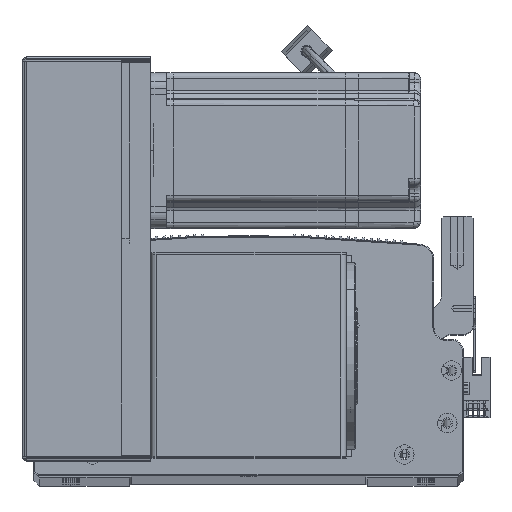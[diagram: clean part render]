
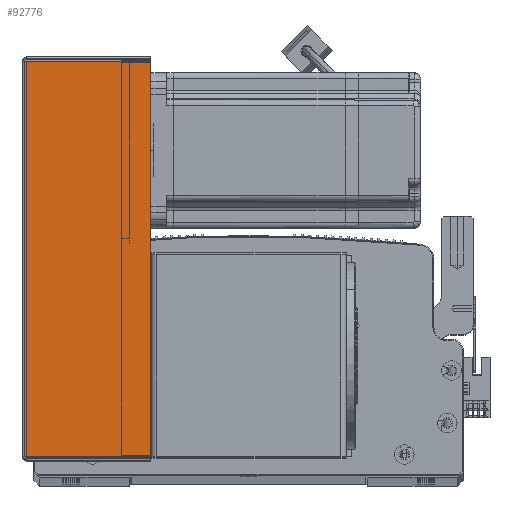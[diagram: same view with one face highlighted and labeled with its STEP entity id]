
A CAD part, top view. The second image highlights one B-rep face of the part: STEP entity #92776.
In plain terms, the highlighted planar face has unit normal (0, 0, 1) as drawn and (0, 1, 0) by its records, which use the part's own axes.
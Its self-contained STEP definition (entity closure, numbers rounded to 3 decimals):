
#1323 = CARTESIAN_POINT ( 'NONE',  ( 64.5, 107.5, -204. ) ) ;
#1675 = EDGE_CURVE ( 'NONE', #57358, #22644, #42767, .T. ) ;
#3486 = VERTEX_POINT ( 'NONE', #83156 ) ;
#4098 = EDGE_CURVE ( 'NONE', #15963, #3486, #78254, .T. ) ;
#4883 = DIRECTION ( 'NONE',  ( 1., 0., 0. ) ) ;
#9649 = ORIENTED_EDGE ( 'NONE', *, *, #91565, .F. ) ;
#10841 = DIRECTION ( 'NONE',  ( 0., -1., 0. ) ) ;
#13226 = CARTESIAN_POINT ( 'NONE',  ( 64.5, 107.5, -0.707 ) ) ;
#15963 = VERTEX_POINT ( 'NONE', #21691 ) ;
#16264 = VECTOR ( 'NONE', #4883, 1000. ) ;
#17564 = CARTESIAN_POINT ( 'NONE',  ( 0.737, 107.5, 0. ) ) ;
#17981 = EDGE_CURVE ( 'NONE', #22644, #3486, #27812, .T. ) ;
#21691 = CARTESIAN_POINT ( 'NONE',  ( 0.737, 107.5, -203.293 ) ) ;
#22644 = VERTEX_POINT ( 'NONE', #13226 ) ;
#23465 = DIRECTION ( 'NONE',  ( 0., 0., -1. ) ) ;
#27812 = LINE ( 'NONE', #1323, #63595 ) ;
#32700 = CARTESIAN_POINT ( 'NONE',  ( 0., 107.5, 0. ) ) ;
#36681 = VECTOR ( 'NONE', #64907, 1000. ) ;
#42767 = LINE ( 'NONE', #85599, #16264 ) ;
#53759 = LINE ( 'NONE', #17564, #77940 ) ;
#53937 = EDGE_LOOP ( 'NONE', ( #9649, #62054, #58458, #72136 ) ) ;
#57358 = VERTEX_POINT ( 'NONE', #69194 ) ;
#58458 = ORIENTED_EDGE ( 'NONE', *, *, #17981, .T. ) ;
#62054 = ORIENTED_EDGE ( 'NONE', *, *, #1675, .T. ) ;
#63208 = AXIS2_PLACEMENT_3D ( 'NONE', #32700, #10841, #84180 ) ;
#63595 = VECTOR ( 'NONE', #23465, 1000. ) ;
#64907 = DIRECTION ( 'NONE',  ( 1., 0., 0. ) ) ;
#67472 = CARTESIAN_POINT ( 'NONE',  ( 0., 107.5, -203.293 ) ) ;
#69194 = CARTESIAN_POINT ( 'NONE',  ( 0.737, 107.5, -0.707 ) ) ;
#72136 = ORIENTED_EDGE ( 'NONE', *, *, #4098, .F. ) ;
#76480 = DIRECTION ( 'NONE',  ( 0., 0., -1. ) ) ;
#76799 = PLANE ( 'NONE',  #63208 ) ;
#77940 = VECTOR ( 'NONE', #76480, 1000. ) ;
#78254 = LINE ( 'NONE', #67472, #36681 ) ;
#83156 = CARTESIAN_POINT ( 'NONE',  ( 64.5, 107.5, -203.293 ) ) ;
#83465 = FACE_OUTER_BOUND ( 'NONE', #53937, .T. ) ;
#84180 = DIRECTION ( 'NONE',  ( 1., 0., 0. ) ) ;
#85599 = CARTESIAN_POINT ( 'NONE',  ( 0., 107.5, -0.707 ) ) ;
#91565 = EDGE_CURVE ( 'NONE', #57358, #15963, #53759, .T. ) ;
#92776 = ADVANCED_FACE ( 'NONE', ( #83465 ), #76799, .F. ) ;
